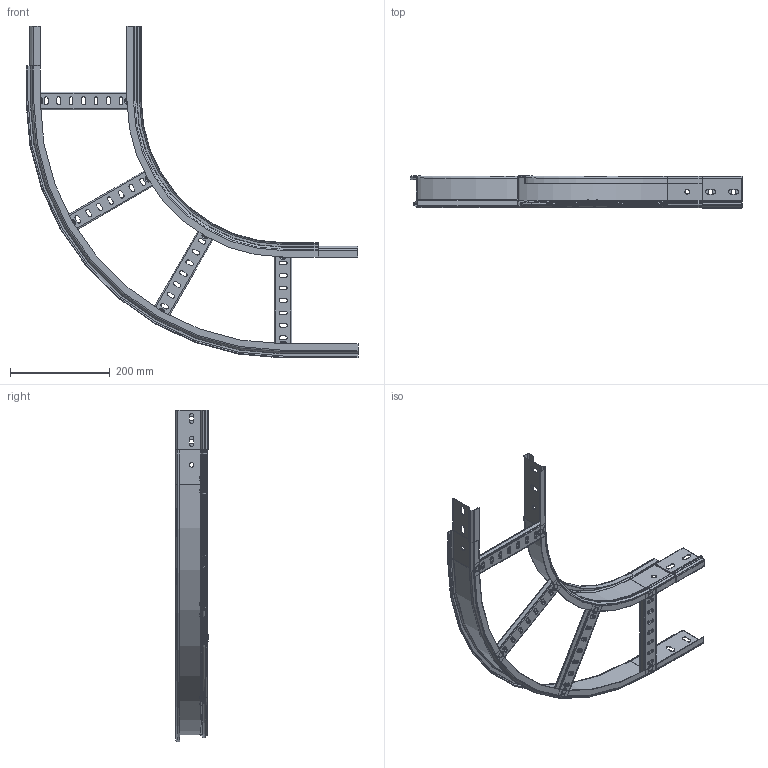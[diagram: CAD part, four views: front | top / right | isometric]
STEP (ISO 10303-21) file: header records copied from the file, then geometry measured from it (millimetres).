
FILE_DESCRIPTION (( 'STEP AP214' ), '1' );
FILE_NAME ('CPFER 200X60 GS.STEP', '2023-06-28T13:17:18', ( '' ), ( '' ), 'SwSTEP 2.0', 'SolidWorks 2022', '' );
FILE_SCHEMA (( 'AUTOMOTIVE_DESIGN' ));
Length unit declared in the file: millimetre
Products named in the file (4): FER_EXTERIOR CP_Circular_Enchufable_200x63; FER_INTERIOR CP_Circular_Enchufable_60; CPFER 200X60 GS; Travesaño RAT35 FER GS_200
Assembly tree (6 placements, depth 2):
  CPFER 200X60 GS
    FER_INTERIOR CP_Circular_Enchufable_60
    Travesaño RAT35 FER GS_200  x4
    FER_EXTERIOR CP_Circular_Enchufable_200x63
Bounding box: 665.4 x 64.2 x 665.4 mm (x, y, z)
Volume: 79801.2 mm3; surface area: 486354.7 mm2
Topology: 4 solids, 10 shells, 652 faces, 1590 edges, 970 vertices
Faces by surface type: plane 344, cylinder 202, torus 86, cone 18, bspline 2
Entity records: 11142 total; most frequent: CARTESIAN_POINT 2006, DIRECTION 1974, ORIENTED_EDGE 1772, EDGE_CURVE 918, AXIS2_PLACEMENT_3D 708, VERTEX_POINT 562, LINE 558, VECTOR 558
